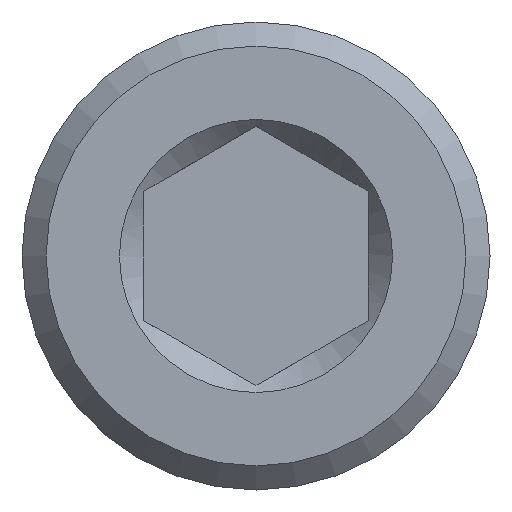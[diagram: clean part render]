
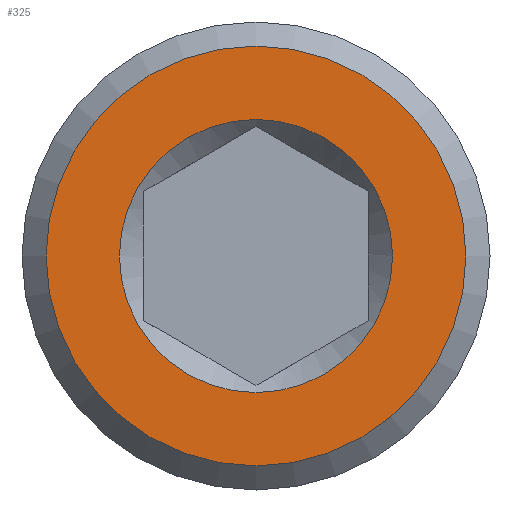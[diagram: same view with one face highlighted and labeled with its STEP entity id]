
A CAD part, front view. The second image highlights one B-rep face of the part: STEP entity #325.
In plain terms, the highlighted planar face has unit normal (0, -1, 0).
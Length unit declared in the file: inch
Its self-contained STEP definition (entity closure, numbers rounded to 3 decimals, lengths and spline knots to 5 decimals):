
#17=FACE_BOUND('',#106,.T.);
#84=FACE_OUTER_BOUND('',#105,.T.);
#105=EDGE_LOOP('',(#274));
#106=EDGE_LOOP('',(#275));
#126=CIRCLE('',#375,0.19);
#127=CIRCLE('',#377,0.292);
#157=VERTEX_POINT('',#576);
#158=VERTEX_POINT('',#580);
#199=EDGE_CURVE('',#157,#157,#126,.T.);
#200=EDGE_CURVE('',#158,#158,#127,.T.);
#274=ORIENTED_EDGE('',*,*,#200,.F.);
#275=ORIENTED_EDGE('',*,*,#199,.F.);
#308=PLANE('',#376);
#325=ADVANCED_FACE('',(#84,#17),#308,.T.);
#375=AXIS2_PLACEMENT_3D('',#578,#463,#464);
#376=AXIS2_PLACEMENT_3D('',#579,#465,#466);
#377=AXIS2_PLACEMENT_3D('',#581,#467,#468);
#463=DIRECTION('center_axis',(0.,-1.,0.));
#464=DIRECTION('ref_axis',(0.,0.,1.));
#465=DIRECTION('center_axis',(0.,-1.,0.));
#466=DIRECTION('ref_axis',(0.,0.,-1.));
#467=DIRECTION('center_axis',(0.,1.,0.));
#468=DIRECTION('ref_axis',(0.,0.,1.));
#576=CARTESIAN_POINT('',(0.,0.,-0.19));
#578=CARTESIAN_POINT('Origin',(0.,0.,0.));
#579=CARTESIAN_POINT('Origin',(0.,0.,-0.155));
#580=CARTESIAN_POINT('',(0.,0.,-0.292));
#581=CARTESIAN_POINT('Origin',(0.,0.,0.));
